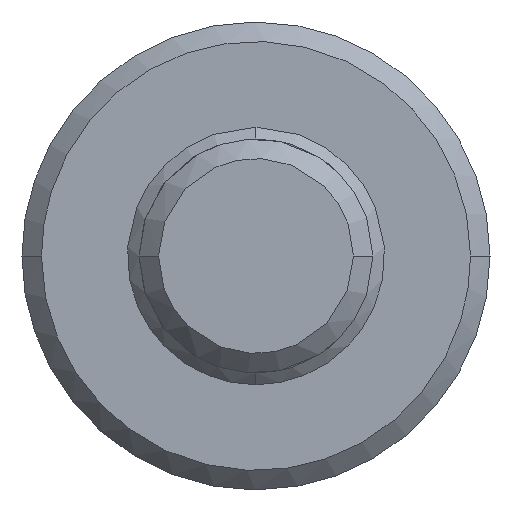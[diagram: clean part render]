
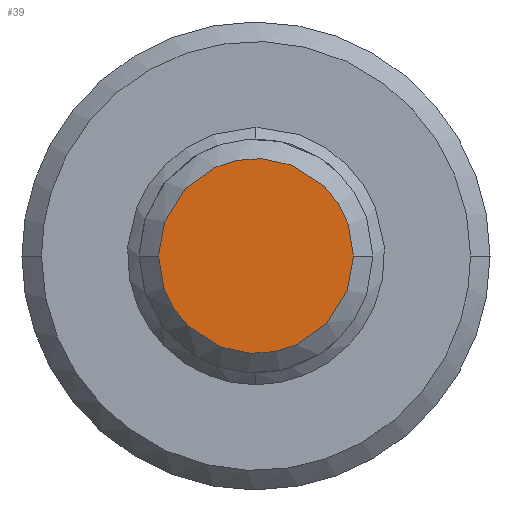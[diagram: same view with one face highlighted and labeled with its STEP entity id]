
A CAD part, left-side view. The second image highlights one B-rep face of the part: STEP entity #39.
In plain terms, the highlighted planar face has unit normal (-1, 0, 0).
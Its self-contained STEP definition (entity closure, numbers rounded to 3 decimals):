
#39=ADVANCED_FACE('',(#83),#1279,.T.);
#83=FACE_OUTER_BOUND('',#127,.T.);
#127=EDGE_LOOP('',(#175,#176));
#175=ORIENTED_EDGE('',*,*,#1007,.T.);
#176=ORIENTED_EDGE('',*,*,#1008,.T.);
#361=B_SPLINE_CURVE_WITH_KNOTS('',1,(#1961,#1962),.UNSPECIFIED.,.F.,.F.,
(2,2),(-4.142,-1.),.UNSPECIFIED.);
#452=B_SPLINE_CURVE_WITH_KNOTS('',1,(#2319,#2320),.UNSPECIFIED.,.F.,.F.,
(2,2),(-8.283,-5.142),.UNSPECIFIED.);
#547=PCURVE('',#1279,#731);
#548=PCURVE('',#1279,#732);
#550=PCURVE('',#1243,#734);
#638=PCURVE('',#1260,#822);
#731=DEFINITIONAL_REPRESENTATION('',(#1100),#3314);
#732=DEFINITIONAL_REPRESENTATION('',(#1102),#3314);
#734=DEFINITIONAL_REPRESENTATION('',(#361),#3314);
#822=DEFINITIONAL_REPRESENTATION('',(#452),#3314);
#915=SURFACE_CURVE('',#1099,(#547,#638),.PCURVE_S1.);
#916=SURFACE_CURVE('',#1101,(#548,#550),.PCURVE_S1.);
#1007=EDGE_CURVE('',#1187,#1190,#915,.T.);
#1008=EDGE_CURVE('',#1190,#1187,#916,.T.);
#1099=(
BOUNDED_CURVE()
B_SPLINE_CURVE(2,(#1937,#1938,#1939,#1940,#1941),.UNSPECIFIED.,.F.,.F.)
B_SPLINE_CURVE_WITH_KNOTS((3,2,3),(-8.283,-6.712,-5.142),
 .UNSPECIFIED.)
CURVE()
GEOMETRIC_REPRESENTATION_ITEM()
RATIONAL_B_SPLINE_CURVE((1.,0.707,1.,0.707,1.))
REPRESENTATION_ITEM('')
);
#1100=(
BOUNDED_CURVE()
B_SPLINE_CURVE(2,(#1942,#1943,#1944,#1945,#1946),.UNSPECIFIED.,.F.,.F.)
B_SPLINE_CURVE_WITH_KNOTS((3,2,3),(-8.283,-6.712,-5.142),
 .UNSPECIFIED.)
CURVE()
GEOMETRIC_REPRESENTATION_ITEM()
RATIONAL_B_SPLINE_CURVE((1.,0.707,1.,0.707,1.))
REPRESENTATION_ITEM('')
);
#1101=(
BOUNDED_CURVE()
B_SPLINE_CURVE(2,(#1947,#1948,#1949,#1950,#1951),.UNSPECIFIED.,.F.,.F.)
B_SPLINE_CURVE_WITH_KNOTS((3,2,3),(-4.142,-2.571,-1.),
 .UNSPECIFIED.)
CURVE()
GEOMETRIC_REPRESENTATION_ITEM()
RATIONAL_B_SPLINE_CURVE((1.,0.707,1.,0.707,1.))
REPRESENTATION_ITEM('')
);
#1102=(
BOUNDED_CURVE()
B_SPLINE_CURVE(2,(#1952,#1953,#1954,#1955,#1956),.UNSPECIFIED.,.F.,.F.)
B_SPLINE_CURVE_WITH_KNOTS((3,2,3),(-4.142,-2.571,-1.),
 .UNSPECIFIED.)
CURVE()
GEOMETRIC_REPRESENTATION_ITEM()
RATIONAL_B_SPLINE_CURVE((1.,0.707,1.,0.707,1.))
REPRESENTATION_ITEM('')
);
#1187=VERTEX_POINT('',#1909);
#1190=VERTEX_POINT('',#1912);
#1243=(
BOUNDED_SURFACE()
B_SPLINE_SURFACE(1,2,((#1330,#1331,#1332,#1333,#1334,#1335,#1336,#1337,#1338),
(#1339,#1340,#1341,#1342,#1343,#1344,#1345,#1346,#1347)),.UNSPECIFIED.,.F.,
 .F.,.F.)
B_SPLINE_SURFACE_WITH_KNOTS((2,2),(3,2,2,2,3),(0.,1.),(0.,1.571,
3.142,4.712,6.283),.UNSPECIFIED.)
GEOMETRIC_REPRESENTATION_ITEM()
RATIONAL_B_SPLINE_SURFACE(((1.,0.707,1.,0.707,1.,
0.707,1.,0.707,1.),(1.,0.707,1.,0.707,
1.,0.707,1.,0.707,1.)))
REPRESENTATION_ITEM('')
SURFACE()
);
#1260=(
BOUNDED_SURFACE()
B_SPLINE_SURFACE(1,2,((#1891,#1892,#1893,#1894,#1895,#1896,#1897,#1898,#1899),
(#1900,#1901,#1902,#1903,#1904,#1905,#1906,#1907,#1908)),.UNSPECIFIED.,.F.,
 .F.,.F.)
B_SPLINE_SURFACE_WITH_KNOTS((2,2),(3,2,2,2,3),(0.,1.),(0.,1.571,
3.142,4.712,6.283),.UNSPECIFIED.)
GEOMETRIC_REPRESENTATION_ITEM()
RATIONAL_B_SPLINE_SURFACE(((1.,0.707,1.,0.707,1.,
0.707,1.,0.707,1.),(1.,0.707,1.,0.707,
1.,0.707,1.,0.707,1.)))
REPRESENTATION_ITEM('')
SURFACE()
);
#1279=PLANE('',#1307);
#1307=AXIS2_PLACEMENT_3D('',#1329,#1318,$);
#1318=DIRECTION('',(-1.,0.,0.));
#1329=CARTESIAN_POINT('',(-684.,282.5,32.5));
#1330=CARTESIAN_POINT('',(-686.5,285.,30.));
#1331=CARTESIAN_POINT('',(-686.5,285.,30.));
#1332=CARTESIAN_POINT('',(-686.5,285.,30.));
#1333=CARTESIAN_POINT('',(-686.5,285.,30.));
#1334=CARTESIAN_POINT('',(-686.5,285.,30.));
#1335=CARTESIAN_POINT('',(-686.5,285.,30.));
#1336=CARTESIAN_POINT('',(-686.5,285.,30.));
#1337=CARTESIAN_POINT('',(-686.5,285.,30.));
#1338=CARTESIAN_POINT('',(-686.5,285.,30.));
#1339=CARTESIAN_POINT('',(-682.257,289.243,30.));
#1340=CARTESIAN_POINT('',(-682.257,289.243,25.757));
#1341=CARTESIAN_POINT('',(-682.257,285.,25.757));
#1342=CARTESIAN_POINT('',(-682.257,280.757,25.757));
#1343=CARTESIAN_POINT('',(-682.257,280.757,30.));
#1344=CARTESIAN_POINT('',(-682.257,280.757,34.243));
#1345=CARTESIAN_POINT('',(-682.257,285.,34.243));
#1346=CARTESIAN_POINT('',(-682.257,289.243,34.243));
#1347=CARTESIAN_POINT('',(-682.257,289.243,30.));
#1891=CARTESIAN_POINT('',(-686.5,285.,30.));
#1892=CARTESIAN_POINT('',(-686.5,285.,30.));
#1893=CARTESIAN_POINT('',(-686.5,285.,30.));
#1894=CARTESIAN_POINT('',(-686.5,285.,30.));
#1895=CARTESIAN_POINT('',(-686.5,285.,30.));
#1896=CARTESIAN_POINT('',(-686.5,285.,30.));
#1897=CARTESIAN_POINT('',(-686.5,285.,30.));
#1898=CARTESIAN_POINT('',(-686.5,285.,30.));
#1899=CARTESIAN_POINT('',(-686.5,285.,30.));
#1900=CARTESIAN_POINT('',(-682.257,289.243,30.));
#1901=CARTESIAN_POINT('',(-682.257,289.243,25.757));
#1902=CARTESIAN_POINT('',(-682.257,285.,25.757));
#1903=CARTESIAN_POINT('',(-682.257,280.757,25.757));
#1904=CARTESIAN_POINT('',(-682.257,280.757,30.));
#1905=CARTESIAN_POINT('',(-682.257,280.757,34.243));
#1906=CARTESIAN_POINT('',(-682.257,285.,34.243));
#1907=CARTESIAN_POINT('',(-682.257,289.243,34.243));
#1908=CARTESIAN_POINT('',(-682.257,289.243,30.));
#1909=CARTESIAN_POINT('',(-684.,287.5,30.));
#1912=CARTESIAN_POINT('',(-684.,282.5,30.));
#1937=CARTESIAN_POINT('',(-684.,287.5,30.));
#1938=CARTESIAN_POINT('',(-684.,287.5,27.5));
#1939=CARTESIAN_POINT('',(-684.,285.,27.5));
#1940=CARTESIAN_POINT('',(-684.,282.5,27.5));
#1941=CARTESIAN_POINT('',(-684.,282.5,30.));
#1942=CARTESIAN_POINT('',(1.,0.5));
#1943=CARTESIAN_POINT('',(1.,1.));
#1944=CARTESIAN_POINT('',(0.5,1.));
#1945=CARTESIAN_POINT('',(0.,1.));
#1946=CARTESIAN_POINT('',(0.,0.5));
#1947=CARTESIAN_POINT('',(-684.,282.5,30.));
#1948=CARTESIAN_POINT('',(-684.,282.5,32.5));
#1949=CARTESIAN_POINT('',(-684.,285.,32.5));
#1950=CARTESIAN_POINT('',(-684.,287.5,32.5));
#1951=CARTESIAN_POINT('',(-684.,287.5,30.));
#1952=CARTESIAN_POINT('',(0.,0.5));
#1953=CARTESIAN_POINT('',(0.,0.));
#1954=CARTESIAN_POINT('',(0.5,0.));
#1955=CARTESIAN_POINT('',(1.,0.));
#1956=CARTESIAN_POINT('',(1.,0.5));
#1961=CARTESIAN_POINT('',(0.589,3.142));
#1962=CARTESIAN_POINT('',(0.589,6.283));
#2319=CARTESIAN_POINT('',(0.589,0.));
#2320=CARTESIAN_POINT('',(0.589,3.142));
#3314=(
GEOMETRIC_REPRESENTATION_CONTEXT(2)
PARAMETRIC_REPRESENTATION_CONTEXT()
REPRESENTATION_CONTEXT('pspace','')
);
